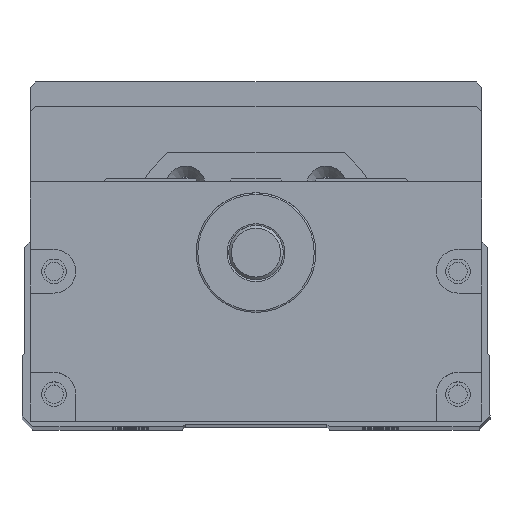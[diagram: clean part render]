
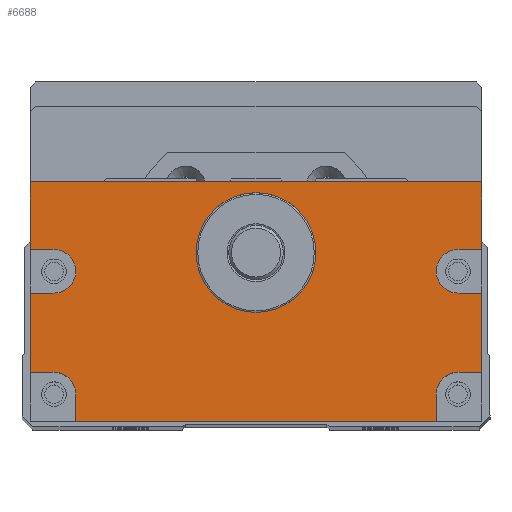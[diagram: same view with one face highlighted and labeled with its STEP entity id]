
A CAD part, top view. The second image highlights one B-rep face of the part: STEP entity #6688.
In plain terms, the highlighted planar face has unit normal (0, 0, 1).
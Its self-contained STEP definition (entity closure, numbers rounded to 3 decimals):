
#504=LINE('',#27092,#1202);
#506=LINE('',#27096,#1204);
#507=LINE('',#27099,#1205);
#508=LINE('',#27101,#1206);
#509=LINE('',#27105,#1207);
#510=LINE('',#27107,#1208);
#511=LINE('',#27108,#1209);
#512=LINE('',#27110,#1210);
#513=LINE('',#27114,#1211);
#514=LINE('',#27116,#1212);
#515=LINE('',#27118,#1213);
#516=LINE('',#27122,#1214);
#517=LINE('',#27124,#1215);
#518=LINE('',#27126,#1216);
#1202=VECTOR('',#15701,1.);
#1204=VECTOR('',#15705,1.);
#1205=VECTOR('',#15706,1.);
#1206=VECTOR('',#15707,1.);
#1207=VECTOR('',#15710,1.);
#1208=VECTOR('',#15711,1.);
#1209=VECTOR('',#15712,1.);
#1210=VECTOR('',#15713,1.);
#1211=VECTOR('',#15716,1.);
#1212=VECTOR('',#15717,1.);
#1213=VECTOR('',#15718,1.);
#1214=VECTOR('',#15721,1.);
#1215=VECTOR('',#15722,1.);
#1216=VECTOR('',#15723,1.);
#6688=ADVANCED_FACE('',(#7526,#7527),#7135,.T.);
#7135=PLANE('',#14244);
#7526=FACE_BOUND('',#8070,.T.);
#7527=FACE_BOUND('',#8071,.T.);
#8070=EDGE_LOOP('',(#9499,#9500,#9501,#9502,#9503,#9504,#9505,#9506,#9507,
#9508,#9509,#9510,#9511,#9512,#9513,#9514,#9515,#9516));
#8071=EDGE_LOOP('',(#9517));
#9499=ORIENTED_EDGE('',*,*,#12651,.F.);
#9500=ORIENTED_EDGE('',*,*,#12652,.T.);
#9501=ORIENTED_EDGE('',*,*,#12653,.F.);
#9502=ORIENTED_EDGE('',*,*,#12654,.F.);
#9503=ORIENTED_EDGE('',*,*,#12655,.F.);
#9504=ORIENTED_EDGE('',*,*,#12656,.T.);
#9505=ORIENTED_EDGE('',*,*,#12649,.T.);
#9506=ORIENTED_EDGE('',*,*,#12657,.T.);
#9507=ORIENTED_EDGE('',*,*,#12658,.F.);
#9508=ORIENTED_EDGE('',*,*,#12659,.F.);
#9509=ORIENTED_EDGE('',*,*,#12660,.F.);
#9510=ORIENTED_EDGE('',*,*,#12661,.T.);
#9511=ORIENTED_EDGE('',*,*,#12662,.F.);
#9512=ORIENTED_EDGE('',*,*,#12663,.F.);
#9513=ORIENTED_EDGE('',*,*,#12664,.F.);
#9514=ORIENTED_EDGE('',*,*,#12665,.T.);
#9515=ORIENTED_EDGE('',*,*,#12666,.F.);
#9516=ORIENTED_EDGE('',*,*,#12667,.F.);
#9517=ORIENTED_EDGE('',*,*,#12635,.T.);
#11561=VERTEX_POINT('',#27063);
#11574=VERTEX_POINT('',#27091);
#11575=VERTEX_POINT('',#27093);
#11576=VERTEX_POINT('',#27097);
#11577=VERTEX_POINT('',#27098);
#11578=VERTEX_POINT('',#27100);
#11579=VERTEX_POINT('',#27102);
#11580=VERTEX_POINT('',#27104);
#11581=VERTEX_POINT('',#27106);
#11582=VERTEX_POINT('',#27109);
#11583=VERTEX_POINT('',#27111);
#11584=VERTEX_POINT('',#27113);
#11585=VERTEX_POINT('',#27115);
#11586=VERTEX_POINT('',#27117);
#11587=VERTEX_POINT('',#27119);
#11588=VERTEX_POINT('',#27121);
#11589=VERTEX_POINT('',#27123);
#11590=VERTEX_POINT('',#27125);
#11591=VERTEX_POINT('',#27127);
#12635=EDGE_CURVE('',#11561,#11561,#13655,.T.);
#12649=EDGE_CURVE('',#11575,#11574,#504,.T.);
#12651=EDGE_CURVE('',#11576,#11577,#506,.T.);
#12652=EDGE_CURVE('',#11576,#11578,#507,.T.);
#12653=EDGE_CURVE('',#11579,#11578,#508,.T.);
#12654=EDGE_CURVE('',#11580,#11579,#13664,.T.);
#12655=EDGE_CURVE('',#11581,#11580,#509,.T.);
#12656=EDGE_CURVE('',#11581,#11575,#510,.T.);
#12657=EDGE_CURVE('',#11574,#11582,#511,.T.);
#12658=EDGE_CURVE('',#11583,#11582,#512,.T.);
#12659=EDGE_CURVE('',#11584,#11583,#13665,.T.);
#12660=EDGE_CURVE('',#11585,#11584,#513,.T.);
#12661=EDGE_CURVE('',#11585,#11586,#514,.T.);
#12662=EDGE_CURVE('',#11587,#11586,#515,.T.);
#12663=EDGE_CURVE('',#11588,#11587,#13666,.T.);
#12664=EDGE_CURVE('',#11589,#11588,#516,.T.);
#12665=EDGE_CURVE('',#11589,#11590,#517,.T.);
#12666=EDGE_CURVE('',#11591,#11590,#518,.T.);
#12667=EDGE_CURVE('',#11577,#11591,#13667,.T.);
#13655=CIRCLE('',#14228,11.);
#13664=CIRCLE('',#14240,4.);
#13665=CIRCLE('',#14241,4.);
#13666=CIRCLE('',#14242,4.);
#13667=CIRCLE('',#14243,4.);
#14228=AXIS2_PLACEMENT_3D('',#27062,#15674,#15675);
#14240=AXIS2_PLACEMENT_3D('',#27103,#15708,#15709);
#14241=AXIS2_PLACEMENT_3D('',#27112,#15714,#15715);
#14242=AXIS2_PLACEMENT_3D('',#27120,#15719,#15720);
#14243=AXIS2_PLACEMENT_3D('',#27128,#15724,#15725);
#14244=AXIS2_PLACEMENT_3D('',#27129,#15726,#15727);
#15674=DIRECTION('',(0.,0.,-1.));
#15675=DIRECTION('',(1.,0.,0.));
#15701=DIRECTION('',(-1.,0.,0.));
#15705=DIRECTION('',(-1.,0.,0.));
#15706=DIRECTION('',(0.,1.,0.));
#15707=DIRECTION('',(1.,0.,0.));
#15708=DIRECTION('',(0.,0.,1.));
#15709=DIRECTION('',(1.,0.,0.));
#15710=DIRECTION('',(-1.,0.,0.));
#15711=DIRECTION('',(0.,1.,0.));
#15712=DIRECTION('',(0.,-1.,0.));
#15713=DIRECTION('',(-1.,0.,0.));
#15714=DIRECTION('',(0.,0.,1.));
#15715=DIRECTION('',(1.,0.,0.));
#15716=DIRECTION('',(1.,0.,0.));
#15717=DIRECTION('',(0.,-1.,0.));
#15718=DIRECTION('',(-1.,0.,0.));
#15719=DIRECTION('',(0.,0.,1.));
#15720=DIRECTION('',(1.,0.,0.));
#15721=DIRECTION('',(0.,1.,0.));
#15722=DIRECTION('',(1.,0.,0.));
#15723=DIRECTION('',(0.,-1.,0.));
#15724=DIRECTION('',(0.,0.,1.));
#15725=DIRECTION('',(1.,0.,0.));
#15726=DIRECTION('',(0.,0.,1.));
#15727=DIRECTION('',(1.,0.,0.));
#27062=CARTESIAN_POINT('',(750.,0.,182.5));
#27063=CARTESIAN_POINT('',(761.,0.,182.5));
#27091=CARTESIAN_POINT('',(708.5,13.,182.5));
#27092=CARTESIAN_POINT('',(791.5,13.,182.5));
#27093=CARTESIAN_POINT('',(791.5,13.,182.5));
#27096=CARTESIAN_POINT('',(791.5,-22.,182.5));
#27097=CARTESIAN_POINT('',(791.5,-22.,182.5));
#27098=CARTESIAN_POINT('',(787.115,-22.,182.5));
#27099=CARTESIAN_POINT('',(791.5,-31.,182.5));
#27100=CARTESIAN_POINT('',(791.5,-7.431,182.5));
#27101=CARTESIAN_POINT('',(791.5,-7.431,182.5));
#27102=CARTESIAN_POINT('',(787.115,-7.431,182.5));
#27103=CARTESIAN_POINT('',(787.115,-3.431,182.5));
#27104=CARTESIAN_POINT('',(787.115,0.569,182.5));
#27105=CARTESIAN_POINT('',(791.5,0.569,182.5));
#27106=CARTESIAN_POINT('',(791.5,0.569,182.5));
#27107=CARTESIAN_POINT('',(791.5,-31.,182.5));
#27108=CARTESIAN_POINT('',(708.5,27.5,182.5));
#27109=CARTESIAN_POINT('',(708.5,0.569,182.5));
#27110=CARTESIAN_POINT('',(791.5,0.569,182.5));
#27111=CARTESIAN_POINT('',(712.885,0.569,182.5));
#27112=CARTESIAN_POINT('',(712.885,-3.431,182.5));
#27113=CARTESIAN_POINT('',(712.885,-7.431,182.5));
#27114=CARTESIAN_POINT('',(791.5,-7.431,182.5));
#27115=CARTESIAN_POINT('',(708.5,-7.431,182.5));
#27116=CARTESIAN_POINT('',(708.5,27.5,182.5));
#27117=CARTESIAN_POINT('',(708.5,-22.,182.5));
#27118=CARTESIAN_POINT('',(791.5,-22.,182.5));
#27119=CARTESIAN_POINT('',(712.885,-22.,182.5));
#27120=CARTESIAN_POINT('',(712.885,-26.,182.5));
#27121=CARTESIAN_POINT('',(716.885,-26.,182.5));
#27122=CARTESIAN_POINT('',(716.885,-31.,182.5));
#27123=CARTESIAN_POINT('',(716.885,-31.,182.5));
#27124=CARTESIAN_POINT('',(708.5,-31.,182.5));
#27125=CARTESIAN_POINT('',(783.115,-31.,182.5));
#27126=CARTESIAN_POINT('',(783.115,-31.,182.5));
#27127=CARTESIAN_POINT('',(783.115,-26.,182.5));
#27128=CARTESIAN_POINT('',(787.115,-26.,182.5));
#27129=CARTESIAN_POINT('',(791.5,-31.,182.5));
